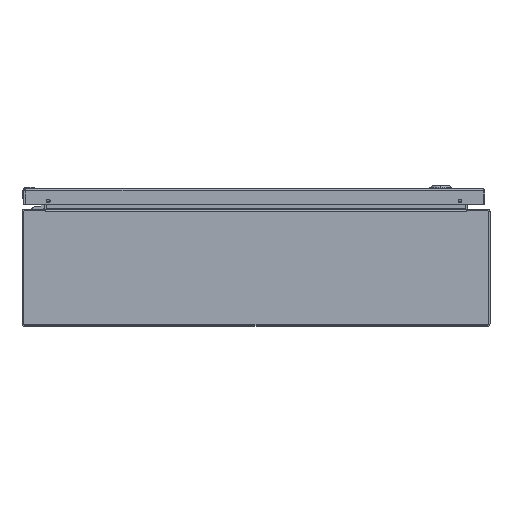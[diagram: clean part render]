
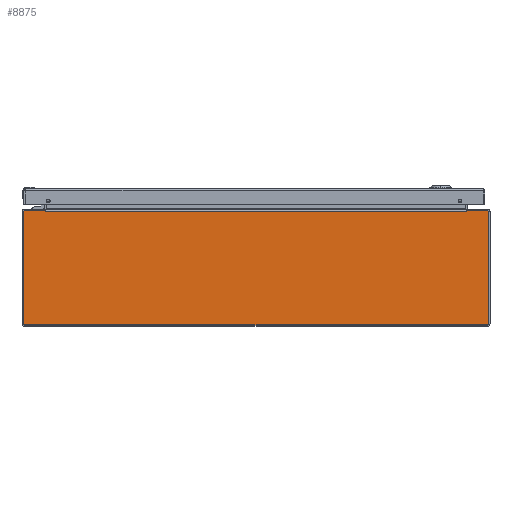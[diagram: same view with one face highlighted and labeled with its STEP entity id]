
A CAD part, front view. The second image highlights one B-rep face of the part: STEP entity #8875.
In plain terms, the highlighted planar face has unit normal (0, -1, 0).
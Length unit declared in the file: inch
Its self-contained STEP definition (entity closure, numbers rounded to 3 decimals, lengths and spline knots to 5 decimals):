
#7658=CARTESIAN_POINT('',(-11.857,0.,2.857));
#7659=DIRECTION('',(0.,-1.,0.));
#7660=DIRECTION('',(0.,0.,1.));
#7661=AXIS2_PLACEMENT_3D('',#7658,#7659,#7660);
#7666=DIRECTION('',(-1.,0.,0.));
#7667=VECTOR('',#7666,1.03388);
#7668=CARTESIAN_POINT('',(-10.82312,0.,2.937));
#7669=LINE('',#7668,#7667);
#7673=DIRECTION('',(0.174,0.,-0.985));
#7674=VECTOR('',#7673,0.05483);
#7675=CARTESIAN_POINT('',(-10.82312,0.,2.937));
#7676=LINE('',#7675,#7674);
#7680=DIRECTION('',(-1.,0.,0.));
#7681=VECTOR('',#7680,0.0156);
#7682=CARTESIAN_POINT('',(-10.798,0.,2.883));
#7683=LINE('',#7682,#7681);
#7687=DIRECTION('',(1.,0.,0.));
#7688=VECTOR('',#7687,0.0156);
#7689=CARTESIAN_POINT('',(10.798,0.,2.883));
#7690=LINE('',#7689,#7688);
#7694=DIRECTION('',(-0.174,0.,-0.985));
#7695=VECTOR('',#7694,0.05483);
#7696=CARTESIAN_POINT('',(10.82312,0.,2.937));
#7697=LINE('',#7696,#7695);
#7701=DIRECTION('',(-1.,0.,0.));
#7702=VECTOR('',#7701,1.03388);
#7703=CARTESIAN_POINT('',(11.857,0.,2.937));
#7704=LINE('',#7703,#7702);
#7708=CARTESIAN_POINT('',(11.857,0.,2.857));
#7709=DIRECTION('',(0.,-1.,0.));
#7710=DIRECTION('',(1.,0.,0.));
#7711=AXIS2_PLACEMENT_3D('',#7708,#7709,#7710);
#7716=DIRECTION('',(0.,0.,1.));
#7717=VECTOR('',#7716,5.714);
#7718=CARTESIAN_POINT('',(11.937,0.,-2.857));
#7719=LINE('',#7718,#7717);
#7723=CARTESIAN_POINT('',(11.857,0.,-2.857));
#7724=DIRECTION('',(0.,-1.,0.));
#7725=DIRECTION('',(0.,0.,-1.));
#7726=AXIS2_PLACEMENT_3D('',#7723,#7724,#7725);
#7731=DIRECTION('',(1.,0.,0.));
#7732=VECTOR('',#7731,23.714);
#7733=CARTESIAN_POINT('',(-11.857,0.,-2.937));
#7734=LINE('',#7733,#7732);
#7738=CARTESIAN_POINT('',(-11.857,0.,-2.857));
#7739=DIRECTION('',(0.,-1.,0.));
#7740=DIRECTION('',(-1.,0.,0.));
#7741=AXIS2_PLACEMENT_3D('',#7738,#7739,#7740);
#7746=DIRECTION('',(0.,0.,-1.));
#7747=VECTOR('',#7746,5.714);
#7748=CARTESIAN_POINT('',(-11.937,0.,2.857));
#7749=LINE('',#7748,#7747);
#8027=DIRECTION('',(1.,0.,0.));
#8028=VECTOR('',#8027,21.596);
#8029=CARTESIAN_POINT('',(-10.798,0.,2.883));
#8030=LINE('',#8029,#8028);
#8688=CARTESIAN_POINT('',(10.798,0.,2.883));
#8689=CARTESIAN_POINT('',(10.8136,0.,2.883));
#8690=VERTEX_POINT('',#8688);
#8691=VERTEX_POINT('',#8689);
#8692=CARTESIAN_POINT('',(10.82312,0.,2.937));
#8693=VERTEX_POINT('',#8692);
#8700=CARTESIAN_POINT('',(-10.798,0.,2.883));
#8701=CARTESIAN_POINT('',(-10.8136,0.,2.883));
#8702=VERTEX_POINT('',#8700);
#8703=VERTEX_POINT('',#8701);
#8704=CARTESIAN_POINT('',(-10.82312,0.,2.937));
#8705=VERTEX_POINT('',#8704);
#8764=CARTESIAN_POINT('',(-11.857,0.,2.937));
#8765=CARTESIAN_POINT('',(-11.937,0.,2.857));
#8766=VERTEX_POINT('',#8764);
#8767=VERTEX_POINT('',#8765);
#8772=CARTESIAN_POINT('',(-11.937,0.,-2.857));
#8773=CARTESIAN_POINT('',(-11.857,0.,-2.937));
#8774=VERTEX_POINT('',#8772);
#8775=VERTEX_POINT('',#8773);
#8780=CARTESIAN_POINT('',(11.857,0.,-2.937));
#8781=CARTESIAN_POINT('',(11.937,0.,-2.857));
#8782=VERTEX_POINT('',#8780);
#8783=VERTEX_POINT('',#8781);
#8788=CARTESIAN_POINT('',(11.937,0.,2.857));
#8789=CARTESIAN_POINT('',(11.857,0.,2.937));
#8790=VERTEX_POINT('',#8788);
#8791=VERTEX_POINT('',#8789);
#8840=CARTESIAN_POINT('',(0.,0.,0.));
#8841=DIRECTION('',(0.,-1.,0.));
#8842=DIRECTION('',(-1.,0.,0.));
#8843=AXIS2_PLACEMENT_3D('',#8840,#8841,#8842);
#8844=PLANE('',#8843);
#8846=ORIENTED_EDGE('',*,*,#8845,.F.);
#8848=ORIENTED_EDGE('',*,*,#8847,.F.);
#8850=ORIENTED_EDGE('',*,*,#8849,.T.);
#8852=ORIENTED_EDGE('',*,*,#8851,.F.);
#8854=ORIENTED_EDGE('',*,*,#8853,.T.);
#8856=ORIENTED_EDGE('',*,*,#8855,.T.);
#8858=ORIENTED_EDGE('',*,*,#8857,.F.);
#8860=ORIENTED_EDGE('',*,*,#8859,.F.);
#8862=ORIENTED_EDGE('',*,*,#8861,.F.);
#8864=ORIENTED_EDGE('',*,*,#8863,.F.);
#8866=ORIENTED_EDGE('',*,*,#8865,.F.);
#8868=ORIENTED_EDGE('',*,*,#8867,.F.);
#8870=ORIENTED_EDGE('',*,*,#8869,.F.);
#8872=ORIENTED_EDGE('',*,*,#8871,.F.);
#8873=EDGE_LOOP('',(#8846,#8848,#8850,#8852,#8854,#8856,#8858,#8860,#8862,#8864,
#8866,#8868,#8870,#8872));
#8874=FACE_OUTER_BOUND('',#8873,.F.);
#7662=CIRCLE('',#7661,0.08);
#7712=CIRCLE('',#7711,0.08);
#7727=CIRCLE('',#7726,0.08);
#7742=CIRCLE('',#7741,0.08);
#8845=EDGE_CURVE('',#8766,#8767,#7662,.T.);
#8847=EDGE_CURVE('',#8705,#8766,#7669,.T.);
#8849=EDGE_CURVE('',#8705,#8703,#7676,.T.);
#8851=EDGE_CURVE('',#8702,#8703,#7683,.T.);
#8853=EDGE_CURVE('',#8702,#8690,#8030,.T.);
#8855=EDGE_CURVE('',#8690,#8691,#7690,.T.);
#8857=EDGE_CURVE('',#8693,#8691,#7697,.T.);
#8859=EDGE_CURVE('',#8791,#8693,#7704,.T.);
#8861=EDGE_CURVE('',#8790,#8791,#7712,.T.);
#8863=EDGE_CURVE('',#8783,#8790,#7719,.T.);
#8865=EDGE_CURVE('',#8782,#8783,#7727,.T.);
#8867=EDGE_CURVE('',#8775,#8782,#7734,.T.);
#8869=EDGE_CURVE('',#8774,#8775,#7742,.T.);
#8871=EDGE_CURVE('',#8767,#8774,#7749,.T.);
#8875=ADVANCED_FACE('',(#8874),#8844,.T.);
